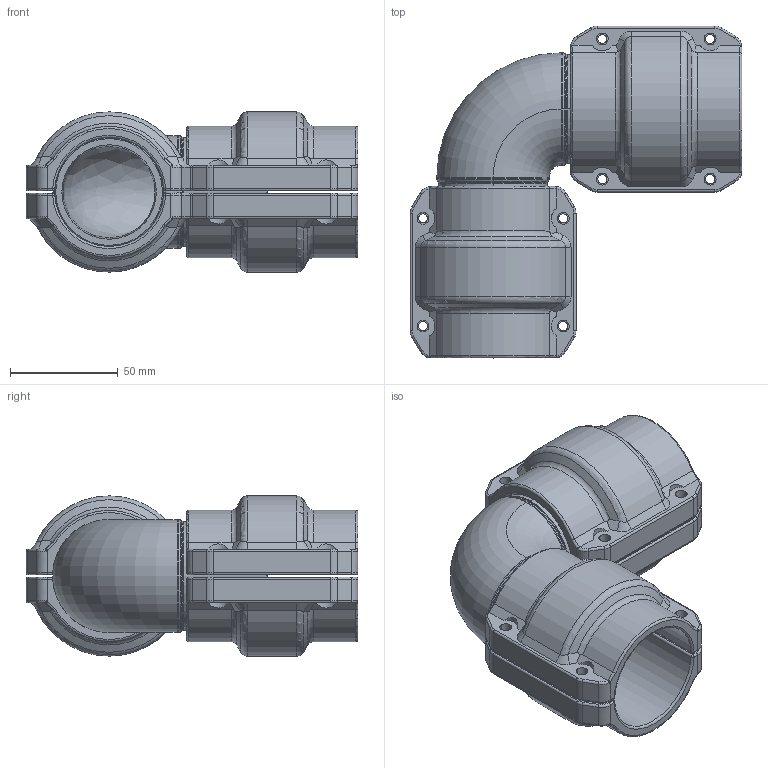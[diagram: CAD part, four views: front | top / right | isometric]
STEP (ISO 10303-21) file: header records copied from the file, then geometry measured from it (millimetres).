
FILE_DESCRIPTION((''),'2;1');
FILE_NAME('2015500399_ASM_11_ASM','2017-05-15T',('Administrator'),(''),'PRO/ENGINEER BY PARAMETRIC TECHNOLOGY CORPORATION, 2009360','PRO/ENGINEER BY PARAMETRIC TECHNOLOGY CORPORATION, 2009360','');
FILE_SCHEMA(('AUTOMOTIVE_DESIGN_CC2 { 1 2 10303 214 -1 1 5 2 }'));
Length unit declared in the file: millimetre
Products named in the file (5): 2015500300_11; 201550020001_1; 201550020000_1; 2015500200_ASM_1_ASM; 2015500399_ASM_11_ASM
Assembly tree (5 placements, depth 3):
  2015500399_ASM_11_ASM
    2015500300_11
    2015500200_ASM_1_ASM  x2
      201550020001_1
      201550020000_1
Bounding box: 153.9 x 153.9 x 74.3 mm (x, y, z)
Volume: 349546.8 mm3; surface area: 117181.5 mm2
Topology: 5 solids, 5 shells, 463 faces, 1214 edges, 745 vertices
Faces by surface type: cylinder 194, torus 114, plane 74, bspline 49, cone 16, sphere 16
Entity records: 11187 total; most frequent: CARTESIAN_POINT 2977, DIRECTION 1328, ORIENTED_EDGE 1300, PRESENTATION_STYLE_ASSIGNMENT 653, STYLED_ITEM 653, CURVE_STYLE 650, EDGE_CURVE 650, AXIS2_PLACEMENT_3D 564
